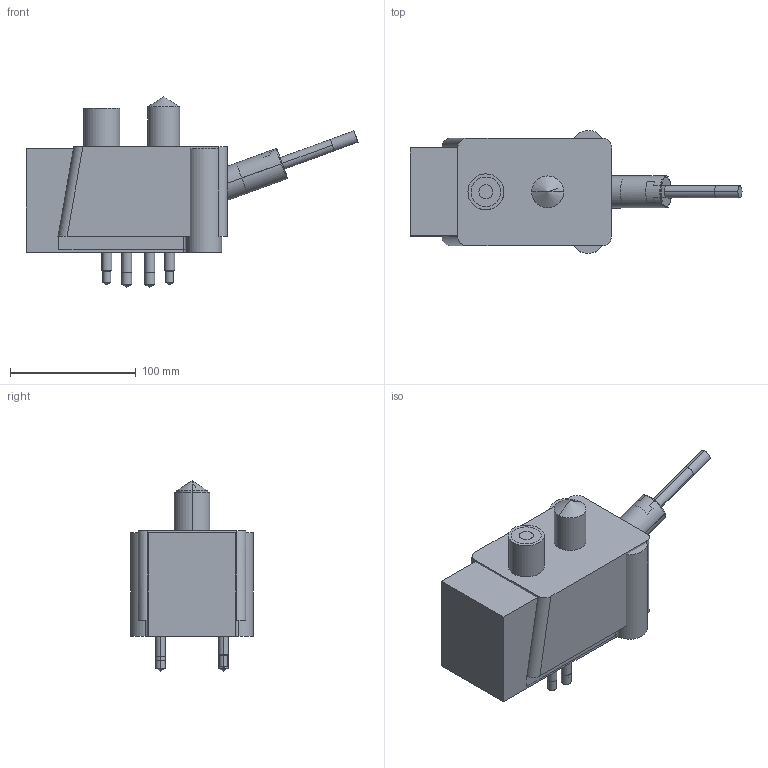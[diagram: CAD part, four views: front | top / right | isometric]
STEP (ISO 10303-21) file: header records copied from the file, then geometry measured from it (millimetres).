
FILE_DESCRIPTION((' '),'2;1');
FILE_NAME( 'EZ-20-P.stp', '2023-11-29T14:30:20', (' '), ('--- Datakit www.datakit.com---'), ' Datakit CrossCadWare V2020.4 Oct 21 2020', 'Export from SolidLink (Hexagon Production Software)', ' ');
FILE_SCHEMA(('AP242_MANAGED_MODEL_BASED_3D_ENGINEERING_MIM_LF { 1 0 10303 442 1 1 4 }'));
Length unit declared in the file: millimetre
Products named in the file (121): Workplanes; 1700579255; 1679431650; 1700502565; 1700502671; 1679422643; 1679422646; 1679422647; 1679422648; 1679422668; 1679422675; 1679422676; 1679422677; 1679422678; 1679422679; 1700837448; 1700837550; 1701269466; 1701286655; 1701286656; 1701286657; 1701286658; 1701286659; 1701286660; 1701286661; 1701286662; 1701286663; 1701286664; 1701286665; 1701286666; 1701286667; 1701286668; 1701286669; 1701286670; 1701286671; 1701286672; 1701286673; 1701286674; 1701286675; 1701286676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
Bounding box: 264.27 x 97.7 x 151.64 mm (x, y, z)
Volume: 2505390.3 mm3; surface area: 226931.6 mm2
Topology: 16 solids, 17 shells, 369 faces, 1054 edges, 931 vertices
Faces by surface type: plane 142, cylinder 125, cone 86, torus 6, revolution 4, sphere 4, bspline 2
Entity records: 16572 total; most frequent: CARTESIAN_POINT 5325, DIRECTION 2301, ORIENTED_EDGE 1660, AXIS2_PLACEMENT_3D 912, EDGE_CURVE 836, VERTEX_POINT 531, VECTOR 473, LINE 473
